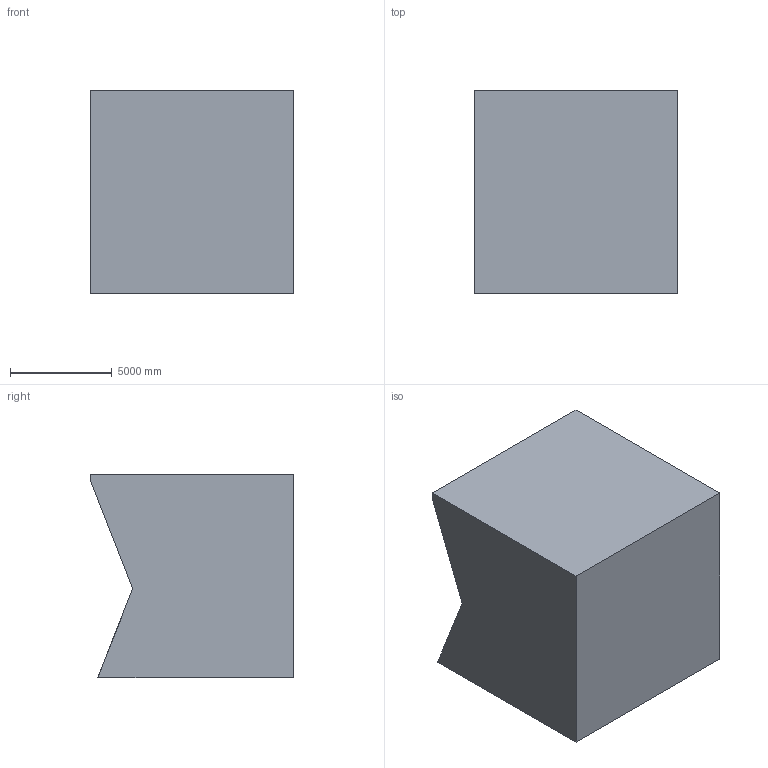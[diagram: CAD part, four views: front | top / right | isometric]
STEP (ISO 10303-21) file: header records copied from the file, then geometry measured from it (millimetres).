
FILE_DESCRIPTION (( 'STEP AP203' ), '1' );
FILE_NAME ('39.STEP', '2022-07-28T13:28:04', ( 'user' ), ( '' ), 'SwSTEP 2.0', 'SolidWorks 2021', '' );
FILE_SCHEMA (( 'CONFIG_CONTROL_DESIGN' ));
Length unit declared in the file: centimetre
Products named in the file (1): 39
Bounding box: 10000 x 10000 x 10000 mm (x, y, z)
Volume: 866214563401.6 mm3; surface area: 583280211.2 mm2
Topology: 1 solids, 1 shells, 12 faces, 30 edges, 20 vertices
Faces by surface type: plane 10, cylinder 2
Entity records: 433 total; most frequent: CARTESIAN_POINT 69, ORIENTED_EDGE 60, DIRECTION 56, EDGE_CURVE 30, VECTOR 26, LINE 26, VERTEX_POINT 20, AXIS2_PLACEMENT_3D 15
